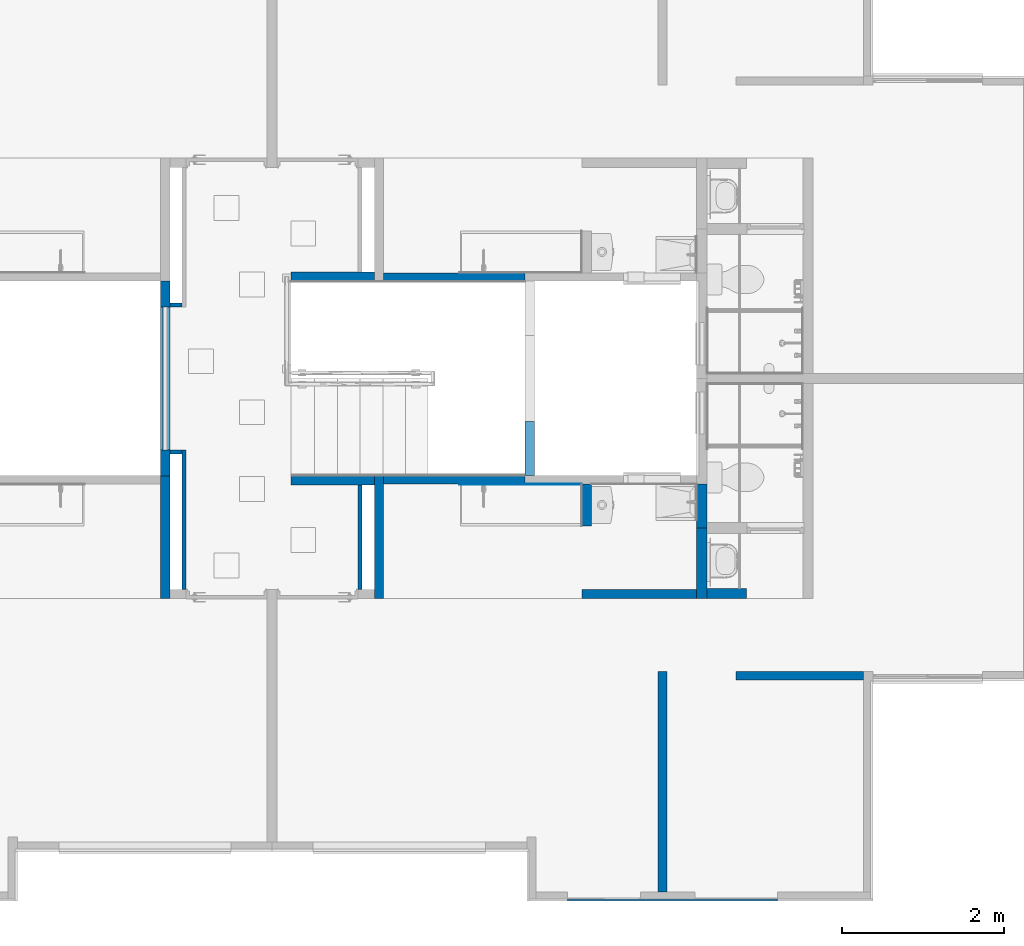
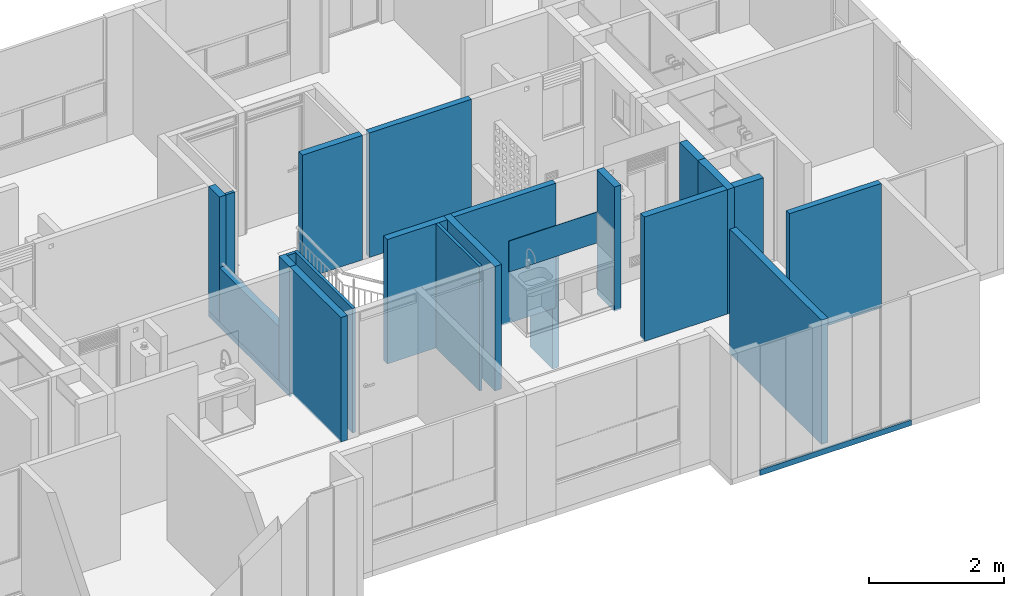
# One storey, part 13 of 47: 24 walls.
"""IFC4 building model written with IfcOpenShell, lengths in metres."""

from ifc_helpers import new_model, entity, si_unit, converted_unit, derived_unit, direction, frame, origin, place, context, subcontext, project, spatial, indexed_curve, outline, extrude, material, constituent, constituent_set, type_object, element, save


model = new_model("IFC4")

# Units and contexts
model_context = context("Model", 3, precision=1e-05, world=origin(), true_north=direction((6.123031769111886e-17, 1.0)))
body_context = subcontext(model_context, "Body", "Model", "MODEL_VIEW")
ifc_project = project(units=[si_unit("LENGTHUNIT", "METRE"), si_unit("AREAUNIT", "SQUARE_METRE"), si_unit("VOLUMEUNIT", "CUBIC_METRE"), converted_unit("PLANEANGLEUNIT", "DEGREE", entity("IfcRatioMeasure", 0.017453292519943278), si_unit("PLANEANGLEUNIT", "RADIAN"), dimensions=[0, 0, 0, 0, 0, 0, 0]), si_unit("MASSUNIT", "GRAM", prefix="KILO"), derived_unit("MASSDENSITYUNIT", [(si_unit("MASSUNIT", "GRAM", prefix="KILO"), 1), (si_unit("LENGTHUNIT", "METRE"), -3)]), derived_unit("IONCONCENTRATIONUNIT", [(si_unit("MASSUNIT", "GRAM", prefix="KILO"), 1), (si_unit("LENGTHUNIT", "METRE"), -3)]), derived_unit("MOMENTOFINERTIAUNIT", [(si_unit("LENGTHUNIT", "METRE"), 4)]), si_unit("TIMEUNIT", "SECOND"), si_unit("FREQUENCYUNIT", "HERTZ"), si_unit("THERMODYNAMICTEMPERATUREUNIT", "DEGREE_CELSIUS"), derived_unit("THERMALTRANSMITTANCEUNIT", [(si_unit("MASSUNIT", "GRAM", prefix="KILO"), 1), (si_unit("THERMODYNAMICTEMPERATUREUNIT", "KELVIN"), -1), (si_unit("TIMEUNIT", "SECOND"), -3)]), derived_unit("THERMALCONDUCTANCEUNIT", [(si_unit("MASSUNIT", "GRAM", prefix="KILO"), 1), (si_unit("THERMODYNAMICTEMPERATUREUNIT", "KELVIN"), -1), (si_unit("TIMEUNIT", "SECOND"), -3), (si_unit("LENGTHUNIT", "METRE"), 1)]), derived_unit("VOLUMETRICFLOWRATEUNIT", [(si_unit("LENGTHUNIT", "METRE"), 3), (si_unit("TIMEUNIT", "SECOND"), -1)]), derived_unit("MASSFLOWRATEUNIT", [(si_unit("MASSUNIT", "GRAM", prefix="KILO"), 1), (si_unit("TIMEUNIT", "SECOND"), -1)]), derived_unit("ROTATIONALFREQUENCYUNIT", [(si_unit("TIMEUNIT", "SECOND"), -1)]), si_unit("ELECTRICCURRENTUNIT", "AMPERE"), si_unit("ELECTRICVOLTAGEUNIT", "VOLT"), si_unit("POWERUNIT", "WATT"), si_unit("FORCEUNIT", "NEWTON", prefix="KILO"), si_unit("ILLUMINANCEUNIT", "LUX"), si_unit("LUMINOUSFLUXUNIT", "LUMEN"), si_unit("LUMINOUSINTENSITYUNIT", "CANDELA"), derived_unit("USERDEFINED", [(si_unit("MASSUNIT", "GRAM", prefix="KILO"), -1), (si_unit("LENGTHUNIT", "METRE"), -2), (si_unit("TIMEUNIT", "SECOND"), 3), (si_unit("LUMINOUSFLUXUNIT", "LUMEN"), 1)]), derived_unit("USERDEFINED", [(si_unit("MASSUNIT", "GRAM", prefix="KILO"), 1), (si_unit("TIMEUNIT", "SECOND"), -3), (si_unit("LENGTHUNIT", "METRE"), 3), (si_unit("ELECTRICCURRENTUNIT", "AMPERE"), -2)]), derived_unit("SOUNDPOWERUNIT", [(si_unit("MASSUNIT", "GRAM", prefix="KILO"), 1), (si_unit("TIMEUNIT", "SECOND"), -3), (si_unit("LENGTHUNIT", "METRE"), 2)]), derived_unit("SOUNDPRESSUREUNIT", [(si_unit("MASSUNIT", "GRAM", prefix="KILO"), 1), (si_unit("LENGTHUNIT", "METRE"), -1), (si_unit("TIMEUNIT", "SECOND"), -2)]), derived_unit("LINEARVELOCITYUNIT", [(si_unit("LENGTHUNIT", "METRE"), 1), (si_unit("TIMEUNIT", "SECOND"), -1)]), si_unit("PRESSUREUNIT", "PASCAL"), derived_unit("USERDEFINED", [(si_unit("MASSUNIT", "GRAM", prefix="KILO"), 1), (si_unit("LENGTHUNIT", "METRE"), -2), (si_unit("TIMEUNIT", "SECOND"), -2)]), derived_unit("LINEARFORCEUNIT", [(si_unit("MASSUNIT", "GRAM", prefix="KILO"), 1), (si_unit("TIMEUNIT", "SECOND"), -2)]), derived_unit("PLANARFORCEUNIT", [(si_unit("MASSUNIT", "GRAM", prefix="KILO"), 1), (si_unit("LENGTHUNIT", "METRE"), -1), (si_unit("TIMEUNIT", "SECOND"), -2)]), derived_unit("SPECIFICHEATCAPACITYUNIT", [(si_unit("THERMODYNAMICTEMPERATUREUNIT", "KELVIN"), -1), (si_unit("LENGTHUNIT", "METRE"), 2), (si_unit("TIMEUNIT", "SECOND"), -2)]), derived_unit("HEATINGVALUEUNIT", [(si_unit("LENGTHUNIT", "METRE"), 2), (si_unit("TIMEUNIT", "SECOND"), -2)]), derived_unit("VAPORPERMEABILITYUNIT", [(si_unit("LENGTHUNIT", "METRE"), -1), (si_unit("TIMEUNIT", "SECOND"), 1)]), derived_unit("DYNAMICVISCOSITYUNIT", [(si_unit("MASSUNIT", "GRAM", prefix="KILO"), 1), (si_unit("TIMEUNIT", "SECOND"), -1), (si_unit("LENGTHUNIT", "METRE"), -1)]), derived_unit("THERMALEXPANSIONCOEFFICIENTUNIT", [(si_unit("THERMODYNAMICTEMPERATUREUNIT", "KELVIN"), -1)]), derived_unit("MODULUSOFELASTICITYUNIT", [(si_unit("MASSUNIT", "GRAM", prefix="KILO"), 1), (si_unit("LENGTHUNIT", "METRE"), -1), (si_unit("TIMEUNIT", "SECOND"), -2)]), derived_unit("ISOTHERMALMOISTURECAPACITYUNIT", [(si_unit("LENGTHUNIT", "METRE"), 3), (si_unit("MASSUNIT", "GRAM", prefix="KILO"), -1)]), derived_unit("MOISTUREDIFFUSIVITYUNIT", [(si_unit("TIMEUNIT", "SECOND"), -1), (si_unit("LENGTHUNIT", "METRE"), 2)])], contexts=[model_context])

# Site, building, storey
site_placement = place(None, origin())
site = spatial("IfcSite", under=ifc_project, at=site_placement, Name="Default", CompositionType="ELEMENT")
building_placement = place(site_placement, origin())
building = spatial("IfcBuilding", under=site, at=building_placement, CompositionType="ELEMENT")
storey_placement = place(building_placement, frame((0.0, 0.0, 11.750000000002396)))
storey = spatial("IfcBuildingStorey", under=building, at=storey_placement, Name="Nivel 6", CompositionType="ELEMENT", Elevation=11.750000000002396)

# Walls
ifc_material_1 = material(Name="Ladrillo claro (Aire)", Category="Materials")
wall_type_1 = type_object("IfcWallType", Name="Basic Wall:B2010 - 0.115m - Muro interior en mampostería - Ladrillo", PredefinedType="STANDARD")
wall_1_placement = place(storey_placement, frame((14.135000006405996, -12.75500003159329, 0.0), z_axis=(0.0, 0.0, 1.0), x_axis=(0.0, 1.0, 0.0)))
element("IfcWall", 1, at=wall_1_placement, inside=storey, type_object=wall_type_1, material=ifc_material_1, Name="Basic Wall:B2010 - 0.115m - Muro interior en mampostería - Ladrillo", ObjectType="Basic Wall:B2010 - 0.115m - Muro interior en mampostería - Ladrillo", PredefinedType="NOTDEFINED", context=body_context, shape_type="SweptSolid", body=[
    extrude(outline(indexed_curve([(2.715000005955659, 0.05750000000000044), (8.08167206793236e-17, 0.057499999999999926), (-8.08167206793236e-17, -0.057499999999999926), (2.715000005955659, -0.057499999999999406), (2.715000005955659, 0.05750000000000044)], self_intersect=False)), origin(), (0.0, 0.0, 1.0), 2.2499999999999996),
])
wall_2_placement = place(storey_placement, frame((14.557500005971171, -9.082499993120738, 0.0), z_axis=(0.0, 0.0, 1.0), x_axis=(-1.0, 0.0, 0.0)))
element("IfcWall", 2, at=wall_2_placement, inside=storey, type_object=wall_type_1, material=ifc_material_1, Name="Basic Wall:B2010 - 0.115m - Muro interior en mampostería - Ladrillo", ObjectType="Basic Wall:B2010 - 0.115m - Muro interior en mampostería - Ladrillo", PredefinedType="NOTDEFINED", context=body_context, shape_type="SweptSolid", body=[
    extrude(outline(indexed_curve([(1.4149999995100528, 0.05750000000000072), (-5.604877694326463e-16, 0.057499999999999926), (5.604877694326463e-16, -0.057499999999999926), (1.414999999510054, -0.05749999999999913), (1.4149999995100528, 0.05750000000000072)], self_intersect=False)), origin(), (0.0, 0.0, 1.0), 2.2499999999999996),
])
wall_3_placement = place(storey_placement, frame((12.500000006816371, -7.62450002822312, -1.1750000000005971), z_axis=(0.0, 0.0, 1.0), x_axis=(0.0, 1.0, 0.0)))
element("IfcWall", 3, at=wall_3_placement, inside=storey, type_object=wall_type_1, material=ifc_material_1, Name="Basic Wall:B2010 - 0.115m - Muro interior en mampostería - Ladrillo", ObjectType="Basic Wall:B2010 - 0.115m - Muro interior en mampostería - Ladrillo", PredefinedType="NOTDEFINED", context=body_context, shape_type="SweptSolid", body=[
    extrude(outline(indexed_curve([(0.669594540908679, 0.05749999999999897), (-1.0377476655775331e-16, 0.057499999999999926), (1.0377476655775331e-16, -0.057499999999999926), (0.6695945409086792, -0.05750000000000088), (0.669594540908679, 0.05749999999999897)], self_intersect=False)), origin(), (0.0, 0.0, 1.0), 2.230000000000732),
])
wall_4_placement = place(storey_placement, frame((10.639999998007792, -7.625000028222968, 0.0), z_axis=(0.0, 0.0, 1.0), x_axis=(0.0, -1.0, 0.0)))
element("IfcWall", 4, at=wall_4_placement, inside=storey, type_object=wall_type_1, material=ifc_material_1, Name="Basic Wall:B2010 - 0.115m - Muro interior en mampostería - Ladrillo", ObjectType="Basic Wall:B2010 - 0.115m - Muro interior en mampostería - Ladrillo", PredefinedType="NOTDEFINED", context=body_context, shape_type="SweptSolid", body=[
    extrude(outline(indexed_curve([(1.5150000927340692, 0.05750000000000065), (-2.7419363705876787e-16, 0.057499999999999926), (2.7419363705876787e-16, -0.057499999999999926), (1.5150000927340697, -0.0574999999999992), (1.5150000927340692, 0.05750000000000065)], self_intersect=False)), origin(), (0.0, 0.0, 1.0), 2.2499999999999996),
])
wall_5_placement = place(storey_placement, frame((8.00500000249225, -7.6250000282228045, 0.0), z_axis=(0.0, 0.0, 1.0), x_axis=(0.0, -1.0, 0.0)))
element("IfcWall", 5, at=wall_5_placement, inside=storey, type_object=wall_type_1, material=ifc_material_1, Name="Basic Wall:B2010 - 0.115m - Muro interior en mampostería - Ladrillo", ObjectType="Basic Wall:B2010 - 0.115m - Muro interior en mampostería - Ladrillo", PredefinedType="NOTDEFINED", context=body_context, shape_type="SweptSolid", body=[
    extrude(outline(indexed_curve([(1.5150000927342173, 0.05750000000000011), (-4.5913366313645e-16, 0.057499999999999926), (4.5913366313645e-16, -0.057499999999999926), (1.5150000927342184, -0.05749999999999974), (1.5150000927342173, 0.05750000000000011)], self_intersect=False)), origin(), (0.0, 0.0, 1.0), 2.250000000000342),
])
ifc_material_2 = material(Name="Concreto (Aire)", Category="Materials")
wall_type_2 = type_object("IfcWallType", Name="Basic Wall:B2010 - 0.10m - Muro interior en concreto", PredefinedType="STANDARD")
wall_6_placement = place(storey_placement, frame((16.612500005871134, -10.090000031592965, 0.0), z_axis=(0.0, 0.0, 1.0), x_axis=(-1.0, 0.0, 0.0)))
element("IfcWall", 6, at=wall_6_placement, inside=storey, type_object=wall_type_2, material=ifc_material_2, Name="Basic Wall:B2010 - 0.10m - Muro interior en concreto", ObjectType="Basic Wall:B2010 - 0.10m - Muro interior en concreto", PredefinedType="NOTDEFINED", context=body_context, shape_type="SweptSolid", body=[
    extrude(outline(indexed_curve([(1.5699999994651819, 0.04999999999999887), (7.775903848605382e-16, 0.04999999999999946), (-7.775903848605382e-16, -0.04999999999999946), (1.5699999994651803, -0.05000000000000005), (1.5699999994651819, 0.04999999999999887)], self_intersect=False)), origin(), (0.0, 0.0, 1.0), 2.2499999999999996),
])
ifc_material_3 = material(Name="Pañete", Category="Materials")
ifc_constituent_1 = constituent(ifc_material_3, Name="Pañete", Category="Materials")
ifc_constituent_2 = constituent(ifc_material_1, Name="Ladrillo claro (Aire)", Category="Materials")
ifc_constituent_set_1 = constituent_set(constituents=[ifc_constituent_1, ifc_constituent_2], Name="Basic Wall:B2010 - 0.115m - Muro interior en mampostería - Ladrillo + Pañete")
wall_type_3 = type_object("IfcWallType", Name="Basic Wall:B2010 - 0.115m - Muro interior en mampostería - Ladrillo + Pañete", PredefinedType="STANDARD", material=ifc_constituent_set_1)
wall_7_placement = place(storey_placement, frame((15.172500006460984, -9.07749999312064, 0.0), z_axis=(0.0, 0.0, 1.0), x_axis=(-1.0, 0.0, 0.0)))
element("IfcWall", 7, at=wall_7_placement, inside=storey, type_object=wall_type_3, material=ifc_constituent_set_1, Name="Basic Wall:B2010 - 0.115m - Muro interior en mampostería - Ladrillo + Pañete", ObjectType="Basic Wall:B2010 - 0.115m - Muro interior en mampostería - Ladrillo + Pañete", PredefinedType="NOTDEFINED", context=body_context, shape_type="SweptSolid", body=[
    extrude(outline(indexed_curve([(-0.005000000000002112, -0.24500000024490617), (0.0049999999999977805, -0.24500000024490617), (0.005000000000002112, 0.24500000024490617), (-0.0049999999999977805, 0.24500000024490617), (-0.005000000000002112, -0.24500000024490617)], self_intersect=False)), frame((0.24500000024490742, -0.057499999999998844, 0.0), z_axis=(0.0, 0.0, 1.0), x_axis=(0.0, 1.0, 0.0)), (0.0, 0.0, 1.0), 2.2500000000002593),
    extrude(outline(indexed_curve([(-0.05749999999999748, -0.24500000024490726), (0.05750000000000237, -0.24500000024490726), (0.05749999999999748, 0.2450000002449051), (-0.05750000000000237, 0.24500000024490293), (-0.05749999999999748, -0.24500000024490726)], self_intersect=False)), frame((0.245000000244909, 0.005000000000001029, 0.0), z_axis=(0.0, 0.0, 1.0), x_axis=(0.0, -1.0, 0.0)), (0.0, 0.0, 1.0), 2.2500000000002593),
])
ifc_material_4 = material(Name="LADRILLO CLARO", Category="Materials")
wall_type_4 = type_object("IfcWallType", Name="Basic Wall:B2010 - 0.115m - MI mampostería no estructural - Ladrillo", PredefinedType="STANDARD")
wall_8_placement = place(storey_placement, frame((8.005000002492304, -5.545000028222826, 0.0), z_axis=(0.0, 0.0, 1.0), x_axis=(0.0, -1.0, 0.0)))
element("IfcWall", 8, at=wall_8_placement, inside=storey, type_object=wall_type_4, material=ifc_material_4, Name="Basic Wall:B2010 - 0.115m - MI mampostería no estructural - Ladrillo", ObjectType="Basic Wall:B2010 - 0.115m - MI mampostería no estructural - Ladrillo", PredefinedType="NOTDEFINED", context=body_context, shape_type="SweptSolid", body=[
    extrude(outline(indexed_curve([(1.7599999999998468, 0.05750000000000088), (-1.0186480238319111e-16, 0.057499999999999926), (1.0186480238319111e-16, -0.057499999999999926), (1.7599999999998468, -0.05749999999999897), (1.7599999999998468, 0.05750000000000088)], self_intersect=False)), origin(), (0.0, 0.0, 1.0), 0.9749999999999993),
])
wall_9_placement = place(storey_placement, frame((13.200000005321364, -8.245000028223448, 0.0), z_axis=(0.0, 0.0, 1.0), x_axis=(0.0, 1.0, 0.0)))
element("IfcWall", 9, at=wall_9_placement, inside=storey, type_object=wall_type_4, material=ifc_material_4, Name="Basic Wall:B2010 - 0.115m - MI mampostería no estructural - Ladrillo", ObjectType="Basic Wall:B2010 - 0.115m - MI mampostería no estructural - Ladrillo", PredefinedType="NOTDEFINED", context=body_context, shape_type="SweptSolid", body=[
    extrude(outline(indexed_curve([(0.5195000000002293, 0.057499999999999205), (-1.6027407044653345e-16, 0.057499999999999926), (1.6027407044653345e-16, -0.057499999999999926), (0.5195000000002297, -0.05750000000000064), (0.5195000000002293, 0.057499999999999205)], self_intersect=False)), origin(), (0.0, 0.0, 1.0), 2.2500000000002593),
])
wall_10_placement = place(storey_placement, frame((8.00500000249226, -5.545000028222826, 0.0), z_axis=(0.0, 0.0, 1.0), x_axis=(0.0, 1.0, 0.0)))
element("IfcWall", 10, at=wall_10_placement, inside=storey, type_object=wall_type_4, material=ifc_material_4, Name="Basic Wall:B2010 - 0.115m - MI mampostería no estructural - Ladrillo", ObjectType="Basic Wall:B2010 - 0.115m - MI mampostería no estructural - Ladrillo", PredefinedType="NOTDEFINED", context=body_context, shape_type="SweptSolid", body=[
    extrude(outline(indexed_curve([(0.3200000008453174, 0.05750000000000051), (9.033989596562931e-17, 0.057499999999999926), (-9.033989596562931e-17, -0.057499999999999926), (0.3200000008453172, -0.057499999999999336), (0.3200000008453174, 0.05750000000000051)], self_intersect=False)), origin(), (0.0, 0.0, 1.0), 2.250000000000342),
])
wall_11_placement = place(storey_placement, frame((8.005000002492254, -7.305000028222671, 0.0), z_axis=(0.0, 0.0, 1.0), x_axis=(0.0, -1.0, 0.0)))
element("IfcWall", 11, at=wall_11_placement, inside=storey, type_object=wall_type_4, material=ifc_material_4, Name="Basic Wall:B2010 - 0.115m - MI mampostería no estructural - Ladrillo", ObjectType="Basic Wall:B2010 - 0.115m - MI mampostería no estructural - Ladrillo", PredefinedType="NOTDEFINED", context=body_context, shape_type="SweptSolid", body=[
    extrude(outline(indexed_curve([(0.3200000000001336, 0.05749999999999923), (-4.5913366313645e-16, 0.057499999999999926), (4.5913366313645e-16, -0.057499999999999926), (0.32000000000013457, -0.05750000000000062), (0.3200000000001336, 0.05749999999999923)], self_intersect=False)), origin(), (0.0, 0.0, 1.0), 2.250000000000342),
])
ifc_material_5 = material(Name="Pañete, estuco y pintura", Category="Materials")
ifc_constituent_3 = constituent(ifc_material_5, Name="Pañete, estuco y pintura", Category="Materials")
ifc_constituent_4 = constituent(ifc_material_1, Name="Ladrillo claro (Aire)", Category="Materials")
ifc_constituent_set_2 = constituent_set(constituents=[ifc_constituent_3, ifc_constituent_4], Name="Basic Wall:B2010 - 0.115m - Muro interior en mampostería - Ladrillo + Pañete+ estuco+ pintura")
wall_type_5 = type_object("IfcWallType", Name="Basic Wall:B2010 - 0.115m - Muro interior en mampostería - Ladrillo + Pañete+ estuco+ pintura", PredefinedType="STANDARD", material=ifc_constituent_set_2)
wall_12_placement = place(storey_placement, frame((14.620000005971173, -9.139999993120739, 0.0), z_axis=(0.0, 0.0, 1.0), x_axis=(0.0, 1.0, 0.0)))
element("IfcWall", 12, at=wall_12_placement, inside=storey, type_object=wall_type_5, material=ifc_constituent_set_2, Name="Basic Wall:B2010 - 0.115m - Muro interior en mampostería - Ladrillo + Pañete+ estuco+ pintura", ObjectType="Basic Wall:B2010 - 0.115m - Muro interior en mampostería - Ladrillo + Pañete+ estuco+ pintura", PredefinedType="NOTDEFINED", context=body_context, shape_type="SweptSolid", body=[
    extrude(outline(indexed_curve([(-0.32083333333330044, -0.003333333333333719), (0.35916666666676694, -0.003333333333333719), (0.4266666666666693, -0.0033333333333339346), (0.4266666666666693, 0.006666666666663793), (-0.44583333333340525, 0.006666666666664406), (-0.44583333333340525, -0.003333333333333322), (-0.32083333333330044, -0.003333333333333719)], self_intersect=False)), frame((0.44583333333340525, -0.059166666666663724, 0.0)), (0.0, 0.0, 1.0), 2.2499999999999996),
    extrude(outline(indexed_curve([(0.2570000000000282, -0.046000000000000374), (0.37200000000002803, -0.046000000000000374), (0.37200000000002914, 0.06900000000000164), (-0.5005000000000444, 0.06899999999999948), (-0.5005000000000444, -0.04600000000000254), (0.2570000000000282, -0.046000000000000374)], self_intersect=False)), frame((0.3720000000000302, 0.016500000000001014, 0.0), z_axis=(0.0, 0.0, 1.0), x_axis=(-1.0, 0.0, 0.0)), (0.0, 0.0, 1.0), 2.2499999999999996),
])
wall_13_placement = place(storey_placement, frame((14.620000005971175, -8.26749999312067, 0.0), z_axis=(0.0, 0.0, 1.0), x_axis=(0.0, 1.0, 0.0)))
element("IfcWall", 13, at=wall_13_placement, inside=storey, type_object=wall_type_5, material=ifc_constituent_set_2, Name="Basic Wall:B2010 - 0.115m - Muro interior en mampostería - Ladrillo + Pañete+ estuco+ pintura", ObjectType="Basic Wall:B2010 - 0.115m - Muro interior en mampostería - Ladrillo + Pañete+ estuco+ pintura", PredefinedType="NOTDEFINED", context=body_context, shape_type="SweptSolid", body=[
    extrude(outline(indexed_curve([(-0.16280569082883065, -0.003999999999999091), (0.3117085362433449, -0.003999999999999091), (0.3117085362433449, 0.005999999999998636), (-0.23030569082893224, 0.005999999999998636), (-0.23030569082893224, -0.003999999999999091), (-0.16280569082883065, -0.003999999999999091)], self_intersect=False)), frame((0.23030569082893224, -0.05850000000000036, 0.0)), (0.0, 0.0, 1.0), 2.2499999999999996),
    extrude(outline(indexed_curve([(0.09067143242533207, -0.03833333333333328), (0.12467143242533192, -0.03833333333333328), (0.21717139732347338, -0.03833333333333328), (0.21717139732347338, 0.07666666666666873), (-0.32484282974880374, 0.07666666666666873), (-0.32484282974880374, -0.03833333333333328), (0.09067143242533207, -0.03833333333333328)], self_intersect=False)), frame((0.21717139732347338, 0.024166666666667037, 0.0), z_axis=(0.0, 0.0, 1.0), x_axis=(-1.0, 0.0, 0.0)), (0.0, 0.0, 1.0), 2.2499999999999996),
])
ifc_material_6 = material(Name="0 muro divisorio", Category="Materials")
wall_type_6 = type_object("IfcWallType", Name="Basic Wall:B2010 - 0.05m - MI No estructural- Concreto", PredefinedType="STANDARD")
wall_14_placement = place(storey_placement, frame((8.212500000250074, -5.520000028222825, 0.0), z_axis=(0.0, 0.0, 1.0), x_axis=(-1.0, 0.0, 0.0)))
element("IfcWall", 14, at=wall_14_placement, inside=storey, type_object=wall_type_6, material=ifc_material_6, Name="Basic Wall:B2010 - 0.05m - MI No estructural- Concreto", ObjectType="Basic Wall:B2010 - 0.05m - MI No estructural- Concreto", PredefinedType="NOTDEFINED", context=body_context, shape_type="SweptSolid", body=[
    extrude(outline(indexed_curve([(0.14999999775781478, 0.02499999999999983), (-1.6892508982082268e-17, 0.02499999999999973), (1.6892508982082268e-17, -0.02499999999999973), (0.1499999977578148, -0.02499999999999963), (0.14999999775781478, 0.02499999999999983)], self_intersect=False)), origin(), (0.0, 0.0, 1.0), 2.2499999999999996),
])
wall_15_placement = place(storey_placement, frame((8.237500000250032, -7.305000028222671, 0.0), z_axis=(0.0, 0.0, 1.0), x_axis=(0.0, -1.0, 0.0)))
element("IfcWall", 15, at=wall_15_placement, inside=storey, type_object=wall_type_6, material=ifc_material_6, Name="Basic Wall:B2010 - 0.05m - MI No estructural- Concreto", ObjectType="Basic Wall:B2010 - 0.05m - MI No estructural- Concreto", PredefinedType="NOTDEFINED", context=body_context, shape_type="SweptSolid", body=[
    extrude(outline(indexed_curve([(1.7199999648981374, 0.02499999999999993), (-3.4343744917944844e-17, 0.02499999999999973), (3.4343744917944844e-17, -0.02499999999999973), (1.7199999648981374, -0.024999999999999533), (1.7199999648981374, 0.02499999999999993)], self_intersect=False)), origin(), (0.0, 0.0, 1.0), 2.2499999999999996),
])
wall_16_placement = place(storey_placement, frame((8.212500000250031, -7.330000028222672, 0.0), z_axis=(0.0, 0.0, 1.0), x_axis=(-1.0, 0.0, 0.0)))
element("IfcWall", 16, at=wall_16_placement, inside=storey, type_object=wall_type_6, material=ifc_material_6, Name="Basic Wall:B2010 - 0.05m - MI No estructural- Concreto", ObjectType="Basic Wall:B2010 - 0.05m - MI No estructural- Concreto", PredefinedType="NOTDEFINED", context=body_context, shape_type="SweptSolid", body=[
    extrude(outline(indexed_curve([(0.14999999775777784, 0.02499999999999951), (-1.4345260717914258e-16, 0.02499999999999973), (1.4345260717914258e-16, -0.02499999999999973), (0.14999999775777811, -0.024999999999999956), (0.14999999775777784, 0.02499999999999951)], self_intersect=False)), origin(), (0.0, 0.0, 1.0), 2.2499999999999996),
])
wall_17_placement = place(storey_placement, frame((10.407500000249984, -7.740000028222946, 0.0), z_axis=(0.0, 0.0, 1.0), x_axis=(0.0, -1.0, 0.0)))
element("IfcWall", 17, at=wall_17_placement, inside=storey, type_object=wall_type_6, material=ifc_material_6, Name="Basic Wall:B2010 - 0.05m - MI No estructural- Concreto", ObjectType="Basic Wall:B2010 - 0.05m - MI No estructural- Concreto", PredefinedType="NOTDEFINED", context=body_context, shape_type="SweptSolid", body=[
    extrude(outline(indexed_curve([(1.2849999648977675, 0.025000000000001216), (3.434374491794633e-17, 0.025000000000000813), (-3.434374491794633e-17, -0.025000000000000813), (1.2849999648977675, -0.02500000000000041), (1.2849999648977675, 0.025000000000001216)], self_intersect=False)), origin(), (0.0, 0.0, 1.0), 2.2499999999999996),
])
ifc_material_7 = material(Name="Ceramica Salpicadero 0.28m x 0.45m", Category="Materials")
wall_type_7 = type_object("IfcWallType", Name="Basic Wall:C2010 - 0.28 x 0.45 - Salpicadero - Cerámica", PredefinedType="STANDARD")
wall_18_placement = place(storey_placement, frame((13.142500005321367, -7.730000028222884, 0.9299999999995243), z_axis=(0.0, 0.0, 1.0), x_axis=(-1.0, 0.0, 0.0)))
element("IfcWall", 18, at=wall_18_placement, inside=storey, type_object=wall_type_7, material=ifc_material_7, Name="Basic Wall:C2010 - 0.28 x 0.45 - Salpicadero - Cerámica", ObjectType="Basic Wall:C2010 - 0.28 x 0.45 - Salpicadero - Cerámica", PredefinedType="NOTDEFINED", context=body_context, shape_type="SweptSolid", body=[
    extrude(outline(indexed_curve([(1.509999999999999, 0.004999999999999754), (-4.956090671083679e-17, 0.004999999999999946), (4.956090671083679e-17, -0.004999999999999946), (1.509999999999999, -0.005000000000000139), (1.509999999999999, 0.004999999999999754)], self_intersect=False)), origin(), (0.0, 0.0, 1.0), 0.5599999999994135),
])
wall_type_8 = type_object("IfcWallType", Name="Basic Wall:B2010 - 0.03m - ME enchape  no estructural - Ladrillo", PredefinedType="STANDARD")
wall_19_placement = place(storey_placement, frame((7.962500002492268, -5.225000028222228, -0.10000000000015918), z_axis=(0.0, 0.0, 1.0), x_axis=(0.0, -1.0, 0.0)))
element("IfcWall", 19, at=wall_19_placement, inside=storey, type_object=wall_type_8, material=ifc_material_4, Name="Basic Wall:B2010 - 0.03m - ME enchape  no estructural - Ladrillo", ObjectType="Basic Wall:B2010 - 0.03m - ME enchape  no estructural - Ladrillo", PredefinedType="NOTDEFINED", context=body_context, shape_type="SweptSolid", body=[
    extrude(outline(indexed_curve([(2.4000000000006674, 0.014999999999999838), (-2.7071678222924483e-17, 0.014999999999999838), (2.7071678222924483e-17, -0.014999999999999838), (2.4000000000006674, -0.014999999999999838), (2.4000000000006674, 0.014999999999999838)], self_intersect=False)), origin(), (0.0, 0.0, 1.0), 0.09999999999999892),
])
wall_20_placement = place(storey_placement, frame((12.962500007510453, -12.855000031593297, -0.10000000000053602)))
element("IfcWall", 20, at=wall_20_placement, inside=storey, type_object=wall_type_8, material=ifc_material_4, Name="Basic Wall:B2010 - 0.03m - ME enchape  no estructural - Ladrillo", ObjectType="Basic Wall:B2010 - 0.03m - ME enchape  no estructural - Ladrillo", PredefinedType="NOTDEFINED", context=body_context, shape_type="SweptSolid", body=[
    extrude(outline(indexed_curve([(2.5899999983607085, 0.015000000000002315), (-4.570130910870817e-17, 0.015000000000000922), (4.570130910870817e-17, -0.015000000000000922), (2.5899999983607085, -0.014999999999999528), (2.5899999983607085, 0.015000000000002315)], self_intersect=False)), origin(), (0.0, 0.0, 1.0), 0.09999999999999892),
])
ifc_material_8 = material(Name="Pintura blanca", Category="Materials")
ifc_constituent_5 = constituent(ifc_material_8, Name="Pintura blanca", Category="Materials")
ifc_constituent_6 = constituent(ifc_material_2, Name="Concreto (Aire)", Category="Materials")
ifc_constituent_set_3 = constituent_set(constituents=[ifc_constituent_5, ifc_constituent_6], Name="Basic Wall:B2010 - 0.10m - MI Concreto- Concreto+ Pintura")
wall_type_9 = type_object("IfcWallType", Name="Basic Wall:B2010 - 0.10m - MI Concreto- Concreto+ Pintura", PredefinedType="STANDARD", material=ifc_constituent_set_3)
wall_21_placement = place(storey_placement, frame((10.6974999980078, -5.175000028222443, 0.0)))
element("IfcWall", 21, at=wall_21_placement, inside=storey, type_object=wall_type_9, material=ifc_constituent_set_3, Name="Basic Wall:B2010 - 0.10m - MI Concreto- Concreto+ Pintura", ObjectType="Basic Wall:B2010 - 0.10m - MI Concreto- Concreto+ Pintura", PredefinedType="NOTDEFINED", context=body_context, shape_type="SweptSolid", body=[
    extrude(outline(indexed_curve([(-0.000500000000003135, -0.8725000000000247), (0.0004999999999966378, -0.8725000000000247), (0.0005000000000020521, 0.8725000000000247), (-0.0004999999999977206, 0.8725000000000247), (-0.000500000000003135, -0.8725000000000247)], self_intersect=False)), frame((0.8725000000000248, -0.04999999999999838, 0.0), z_axis=(0.0, 0.0, 1.0), x_axis=(0.0, 1.0, 0.0)), (0.0, 0.0, 1.0), 2.2500000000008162),
    extrude(outline(indexed_curve([(-0.05000000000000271, -0.8725000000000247), (0.0499999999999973, -0.8725000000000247), (0.05000000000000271, 0.8725000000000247), (-0.0499999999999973, 0.8725000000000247), (-0.05000000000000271, -0.8725000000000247)], self_intersect=False)), frame((0.8725000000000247, 0.0005000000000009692, 0.0), z_axis=(0.0, 0.0, 1.0), x_axis=(0.0, -1.0, 0.0)), (0.0, 0.0, 1.0), 2.2500000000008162),
])
wall_22_placement = place(storey_placement, frame((10.69749999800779, -7.675000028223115, 0.0)))
element("IfcWall", 22, at=wall_22_placement, inside=storey, type_object=wall_type_9, material=ifc_constituent_set_3, Name="Basic Wall:B2010 - 0.10m - MI Concreto- Concreto+ Pintura", ObjectType="Basic Wall:B2010 - 0.10m - MI Concreto- Concreto+ Pintura", PredefinedType="NOTDEFINED", context=body_context, shape_type="SweptSolid", body=[
    extrude(outline(indexed_curve([(-0.000500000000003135, -0.8725000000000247), (0.0004999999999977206, -0.8725000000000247), (0.000500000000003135, 0.8725000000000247), (-0.0004999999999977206, 0.8725000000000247), (-0.000500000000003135, -0.8725000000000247)], self_intersect=False)), frame((0.8725000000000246, 0.04999999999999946, 0.0), z_axis=(0.0, 0.0, 1.0), x_axis=(0.0, -1.0, 0.0)), (0.0, 0.0, 1.0), 2.2500000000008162),
    extrude(outline(indexed_curve([(-0.05000000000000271, -0.8725000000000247), (0.049999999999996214, -0.8725000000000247), (0.050000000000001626, 0.8725000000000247), (-0.0499999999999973, 0.8725000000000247), (-0.05000000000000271, -0.8725000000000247)], self_intersect=False)), frame((0.8725000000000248, -0.0004999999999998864, 0.0), z_axis=(0.0, 0.0, 1.0), x_axis=(0.0, 1.0, 0.0)), (0.0, 0.0, 1.0), 2.2500000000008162),
])
wall_type_10 = type_object("IfcWallType", Name="Basic Wall:B2010 - 0.115m - MI mampostería no estructural - Ladrillo 2", PredefinedType="STANDARD")
wall_23_placement = place(storey_placement, frame((9.552500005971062, -5.1675000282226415, 0.0)))
element("IfcWall", 23, at=wall_23_placement, inside=storey, type_object=wall_type_10, material=ifc_material_4, Name="Basic Wall:B2010 - 0.115m - MI mampostería no estructural - Ladrillo 2", ObjectType="Basic Wall:B2010 - 0.115m - MI mampostería no estructural - Ladrillo 2", PredefinedType="NOTDEFINED", context=body_context, shape_type="SweptSolid", body=[
    extrude(outline(indexed_curve([(1.0299999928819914, 0.057499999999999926), (0.0, 0.057499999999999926), (0.0, -0.057499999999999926), (1.0299999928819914, -0.057499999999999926), (1.0299999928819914, 0.057499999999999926)], self_intersect=False)), origin(), (0.0, 0.0, 1.0), 2.250000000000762),
])
wall_24_placement = place(storey_placement, frame((9.552500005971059, -7.682500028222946, 0.0)))
element("IfcWall", 24, at=wall_24_placement, inside=storey, type_object=wall_type_10, material=ifc_material_4, Name="Basic Wall:B2010 - 0.115m - MI mampostería no estructural - Ladrillo 2", ObjectType="Basic Wall:B2010 - 0.115m - MI mampostería no estructural - Ladrillo 2", PredefinedType="NOTDEFINED", context=body_context, shape_type="SweptSolid", body=[
    extrude(outline(indexed_curve([(1.0299999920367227, 0.057499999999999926), (0.0, 0.057499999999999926), (0.0, -0.057499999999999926), (1.0299999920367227, -0.057499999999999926), (1.0299999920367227, 0.057499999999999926)], self_intersect=False)), origin(), (0.0, 0.0, 1.0), 2.250000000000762),
])

save(model, "model.ifc")
